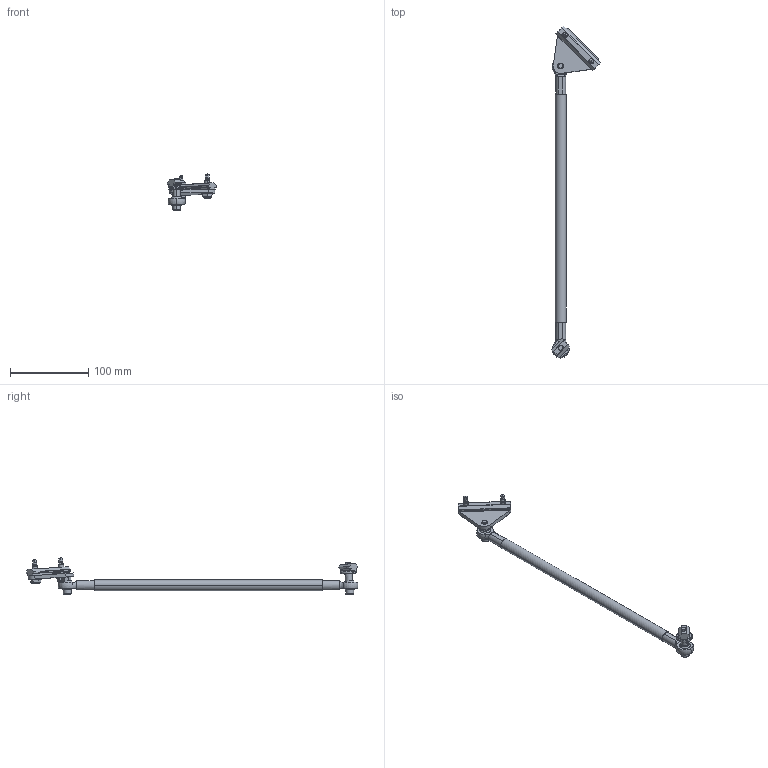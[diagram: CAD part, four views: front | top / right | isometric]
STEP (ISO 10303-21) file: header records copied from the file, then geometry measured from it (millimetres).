
FILE_DESCRIPTION((''),'2;1');
FILE_NAME('39MB-TS_ASM','2023-02-27T',('jenni.wallner'),(''),'PRO/ENGINEER BY PARAMETRIC TECHNOLOGY CORPORATION, 2012420','PRO/ENGINEER BY PARAMETRIC TECHNOLOGY CORPORATION, 2012420','');
FILE_SCHEMA(('CONFIG_CONTROL_DESIGN'));
Length unit declared in the file: inch
Products named in the file (15): 801-129; 710009; 710012; 450226SSP; 807-1291; 920635M; 639971M; 920622M; 990601M; 710013; 300150M; 920616M; 807-1937; 39MB-TS_ASM_ASM; 39MB-TS_ASM
Assembly tree (18 placements, depth 3):
  39MB-TS_ASM
    39MB-TS_ASM_ASM
      801-129  x2
      710009
      710012
      450226SSP  x2
      807-1291
      920635M
      639971M
      920622M
      990601M
      710013
      300150M
      920616M  x2
      807-1937  x2
Bounding box: 62.87 x 425.31 x 47.4 mm (x, y, z)
Volume: 74309.7 mm3; surface area: 54457.4 mm2
Topology: 17 solids, 24 shells, 329 faces, 808 edges, 527 vertices
Faces by surface type: plane 146, cylinder 115, cone 48, sphere 14, torus 6
Entity records: 8312 total; most frequent: CARTESIAN_POINT 1758, DIRECTION 1436, ORIENTED_EDGE 1188, EDGE_CURVE 608, AXIS2_PLACEMENT_3D 572, VERTEX_POINT 404, EDGE_LOOP 294, VECTOR 292
